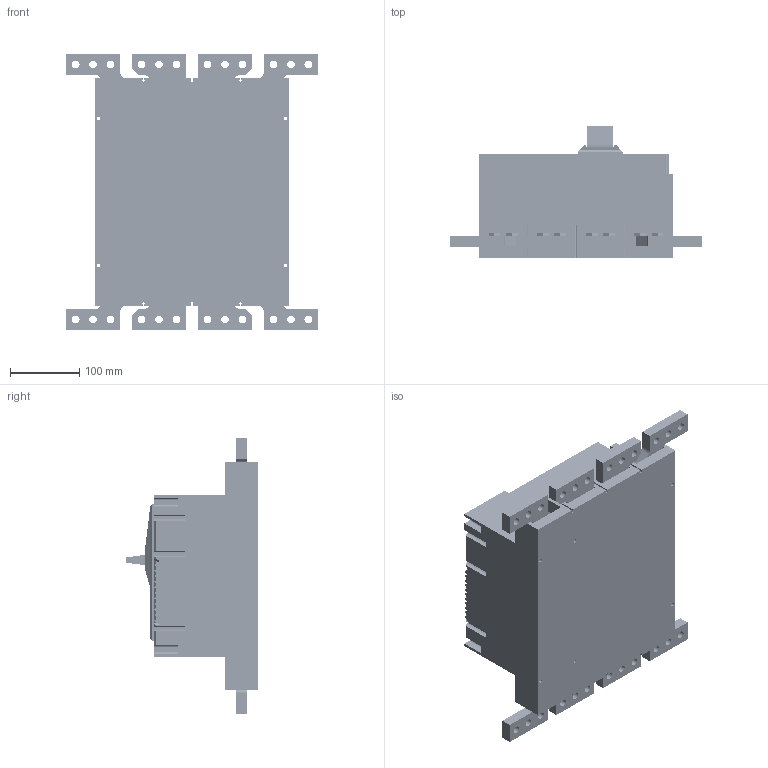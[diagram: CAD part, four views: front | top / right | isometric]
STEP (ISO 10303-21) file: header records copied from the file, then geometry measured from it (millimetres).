
FILE_DESCRIPTION(/* description */ ('','CAx-IF Rec.Pracs.---Representation and Presentation of Product Manufacturing Information (PMI)---3.8---2014-02-18'),/* implementation_level */ '2;1');
FILE_NAME(/* name */ 'E:\3D model\49-susol-mccb-1600af-iec-bus-4p.stp',/* time_stamp */ '2017-11-09T14:59:06+03:00',/* author */ ('dobrin'),/* organization */ (''),/* preprocessor_version */ 'ST-DEVELOPER v16.13',/* originating_system */ 'Autodesk Inventor 2018',/* authorisation */ '');
FILE_SCHEMA (('AP242_MANAGED_MODEL_BASED_3D_ENGINEERING_MIM_LF { 1 0 10303 442 1 1 4 }'));
Products named in the file (2): 49-susol-mccb-1600af-iec-bus-4p; 49-SUSOL-MCCB-1600AF-IEC-BUS-4P_SOLID_1
Assembly tree (1 placements, depth 2):
  49-susol-mccb-1600af-iec-bus-4p
    49-SUSOL-MCCB-1600AF-IEC-BUS-4P_SOLID_1
Bounding box: 362 x 190.6 x 397.2 mm (x, y, z)
Volume: 10779242.8 mm3; surface area: 545763.2 mm2
Topology: 1 solids, 5 shells, 1379 faces, 3732 edges, 2438 vertices
Faces by surface type: plane 897, bspline 240, cylinder 215, cone 18, torus 9
Full cylindrical faces by diameter (mm): 2.6 x6, 5.3 x6, 6 x9, 7 x9, 10 x16, 11 x24
Entity records: 139629 total; most frequent: CARTESIAN_POINT 106644, ORIENTED_EDGE 7276, DIRECTION 5809, EDGE_CURVE 3637, VERTEX_POINT 2424, LINE 2359, VECTOR 2359, AXIS2_PLACEMENT_3D 1729
